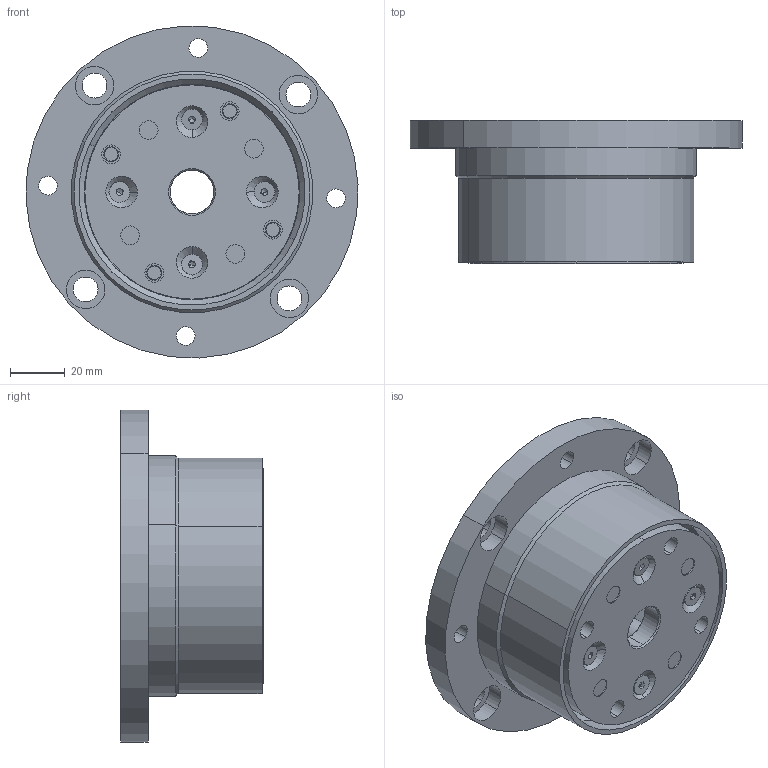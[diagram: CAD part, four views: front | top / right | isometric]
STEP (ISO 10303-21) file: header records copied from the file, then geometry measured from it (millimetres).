
FILE_DESCRIPTION (( 'STEP AP203' ), '1' );
FILE_NAME ('FB-90-78.STEP', '2024-08-08T13:40:24', ( '' ), ( '' ), 'SwSTEP 2.0', 'SolidWorks 2020', '' );
FILE_SCHEMA (( 'CONFIG_CONTROL_DESIGN' ));
Length unit declared in the file: millimetre
Products named in the file (1): FB-90-78
Bounding box: 120.88 x 52 x 120.88 mm (x, y, z)
Surface area: 59692.2 mm2 (no closed solid volume)
Topology: 0 solids, 36 shells, 265 faces, 760 edges, 492 vertices
Faces by surface type: plane 105, cylinder 98, cone 46, torus 16
Entity records: 8592 total; most frequent: DIRECTION 1604, CARTESIAN_POINT 1518, ORIENTED_EDGE 1208, EDGE_CURVE 736, AXIS2_PLACEMENT_3D 610, VERTEX_POINT 492, LINE 384, VECTOR 384
